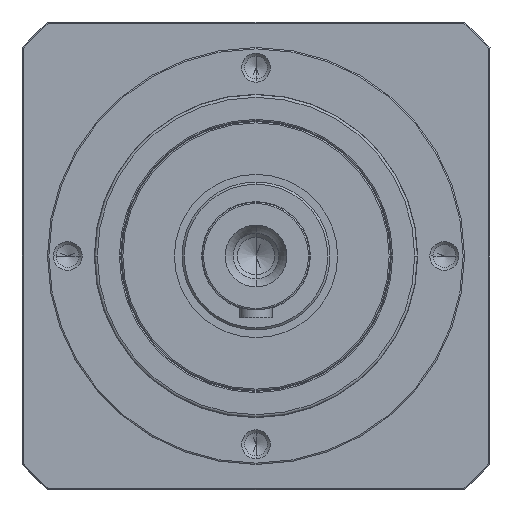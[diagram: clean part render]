
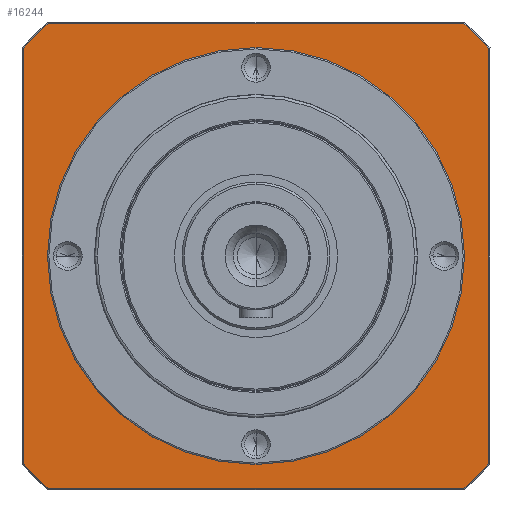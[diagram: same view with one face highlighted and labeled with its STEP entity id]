
A CAD part, left-side view. The second image highlights one B-rep face of the part: STEP entity #16244.
In plain terms, the highlighted planar face has unit normal (-1, 0, 0) as drawn and (0, 0, -1) by its records, which use the part's own axes.
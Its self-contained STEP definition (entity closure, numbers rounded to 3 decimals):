
#15130=CARTESIAN_POINT('',(0.,0.,
2.5));
#15131=DIRECTION('',(0.,0.,-1.));
#15132=DIRECTION('',(0.,-1.,0.));
#15133=AXIS2_PLACEMENT_3D('',#15130,#15131,#15132);
#15135=CARTESIAN_POINT('',(0.,0.,
2.5));
#15136=DIRECTION('',(0.,0.,-1.));
#15137=DIRECTION('',(0.,1.,0.));
#15138=AXIS2_PLACEMENT_3D('',#15135,#15136,#15137);
#15140=CARTESIAN_POINT('',(0.,0.,2.5));
#15141=DIRECTION('',(0.,0.,1.));
#15142=DIRECTION('',(-0.746,-0.666,0.));
#15143=AXIS2_PLACEMENT_3D('',#15140,#15141,#15142);
#15145=DIRECTION('',(1.,0.,0.));
#15146=VECTOR('',#15145,154.58);
#15147=CARTESIAN_POINT('',(-77.29,-86.5,
2.5));
#15148=LINE('',#15147,#15146);
#15149=CARTESIAN_POINT('',(0.,0.,2.5));
#15150=DIRECTION('',(0.,0.,1.));
#15151=DIRECTION('',(0.666,-0.746,0.));
#15152=AXIS2_PLACEMENT_3D('',#15149,#15150,#15151);
#15154=DIRECTION('',(0.,1.,0.));
#15155=VECTOR('',#15154,154.58);
#15156=CARTESIAN_POINT('',(86.5,-77.29,
2.5));
#15157=LINE('',#15156,#15155);
#15158=CARTESIAN_POINT('',(0.,0.,2.5));
#15159=DIRECTION('',(0.,0.,1.));
#15160=DIRECTION('',(0.746,0.666,0.));
#15161=AXIS2_PLACEMENT_3D('',#15158,#15159,#15160);
#15163=DIRECTION('',(-1.,0.,0.));
#15164=VECTOR('',#15163,154.58);
#15165=CARTESIAN_POINT('',(77.29,86.5,2.5));
#15166=LINE('',#15165,#15164);
#15167=CARTESIAN_POINT('',(0.,0.,2.5));
#15168=DIRECTION('',(0.,0.,1.));
#15169=DIRECTION('',(-0.666,0.746,0.));
#15170=AXIS2_PLACEMENT_3D('',#15167,#15168,#15169);
#15172=DIRECTION('',(0.,-1.,0.));
#15173=VECTOR('',#15172,154.58);
#15174=CARTESIAN_POINT('',(-86.5,77.29,
2.5));
#15175=LINE('',#15174,#15173);
#15893=CARTESIAN_POINT('',(0.,-69.5,2.5));
#15894=CARTESIAN_POINT('',(0.,69.5,
2.5));
#15895=VERTEX_POINT('',#15893);
#15896=VERTEX_POINT('',#15894);
#15997=CARTESIAN_POINT('',(-86.5,-77.29,2.5));
#15998=CARTESIAN_POINT('',(-77.29,-86.5,2.5));
#15999=VERTEX_POINT('',#15997);
#16000=VERTEX_POINT('',#15998);
#16005=CARTESIAN_POINT('',(77.29,-86.5,
2.5));
#16006=VERTEX_POINT('',#16005);
#16009=CARTESIAN_POINT('',(86.5,-77.29,2.5));
#16010=VERTEX_POINT('',#16009);
#16013=CARTESIAN_POINT('',(86.5,77.29,2.5));
#16014=VERTEX_POINT('',#16013);
#16017=CARTESIAN_POINT('',(77.29,86.5,2.5));
#16018=VERTEX_POINT('',#16017);
#16021=CARTESIAN_POINT('',(-77.29,86.5,
2.5));
#16022=VERTEX_POINT('',#16021);
#16027=CARTESIAN_POINT('',(-86.5,77.29,2.5));
#16028=VERTEX_POINT('',#16027);
#16216=CARTESIAN_POINT('',(0.,0.,2.5));
#16217=DIRECTION('',(0.,0.,1.));
#16218=DIRECTION('',(0.,1.,0.));
#16219=AXIS2_PLACEMENT_3D('',#16216,#16217,#16218);
#16220=PLANE('',#16219);
#16222=ORIENTED_EDGE('',*,*,#16221,.T.);
#16224=ORIENTED_EDGE('',*,*,#16223,.T.);
#16226=ORIENTED_EDGE('',*,*,#16225,.T.);
#16228=ORIENTED_EDGE('',*,*,#16227,.T.);
#16230=ORIENTED_EDGE('',*,*,#16229,.T.);
#16232=ORIENTED_EDGE('',*,*,#16231,.T.);
#16234=ORIENTED_EDGE('',*,*,#16233,.T.);
#16236=ORIENTED_EDGE('',*,*,#16235,.T.);
#16237=EDGE_LOOP('',(#16222,#16224,#16226,#16228,#16230,#16232,#16234,#16236));
#16238=FACE_OUTER_BOUND('',#16237,.F.);
#16240=ORIENTED_EDGE('',*,*,#16239,.T.);
#16241=ORIENTED_EDGE('',*,*,#16206,.T.);
#16242=EDGE_LOOP('',(#16240,#16241));
#16243=FACE_BOUND('',#16242,.F.);
#16244=ADVANCED_FACE('',(#16238,#16243),#16220,.F.);
#15134=CIRCLE('',#15133,69.5);
#15139=CIRCLE('',#15138,69.5);
#15144=CIRCLE('',#15143,116.);
#15153=CIRCLE('',#15152,116.);
#15162=CIRCLE('',#15161,116.);
#15171=CIRCLE('',#15170,116.);
#16206=EDGE_CURVE('',#15896,#15895,#15139,.T.);
#16221=EDGE_CURVE('',#15999,#16000,#15144,.T.);
#16223=EDGE_CURVE('',#16000,#16006,#15148,.T.);
#16225=EDGE_CURVE('',#16006,#16010,#15153,.T.);
#16227=EDGE_CURVE('',#16010,#16014,#15157,.T.);
#16229=EDGE_CURVE('',#16014,#16018,#15162,.T.);
#16231=EDGE_CURVE('',#16018,#16022,#15166,.T.);
#16233=EDGE_CURVE('',#16022,#16028,#15171,.T.);
#16235=EDGE_CURVE('',#16028,#15999,#15175,.T.);
#16239=EDGE_CURVE('',#15895,#15896,#15134,.T.);
